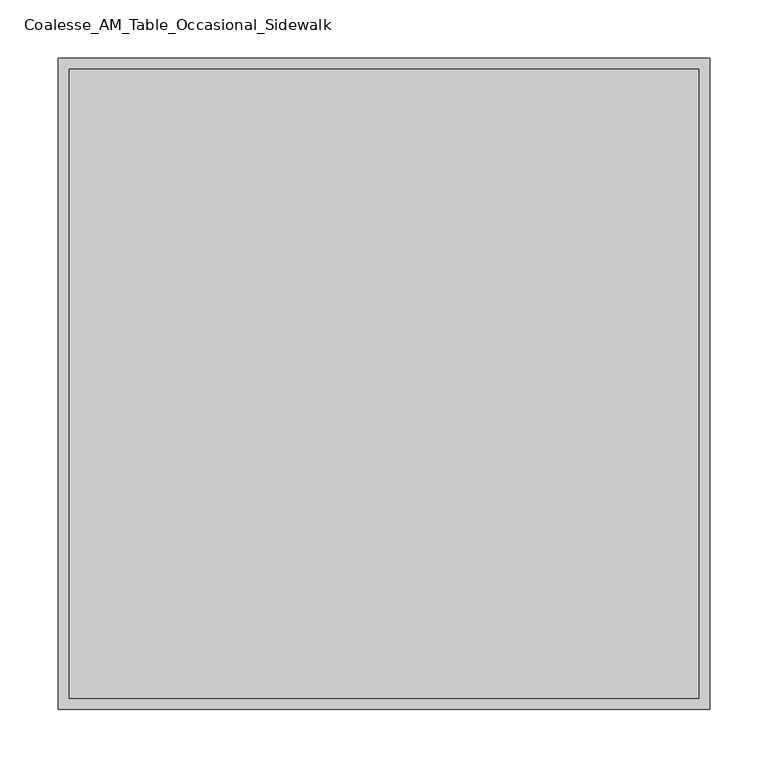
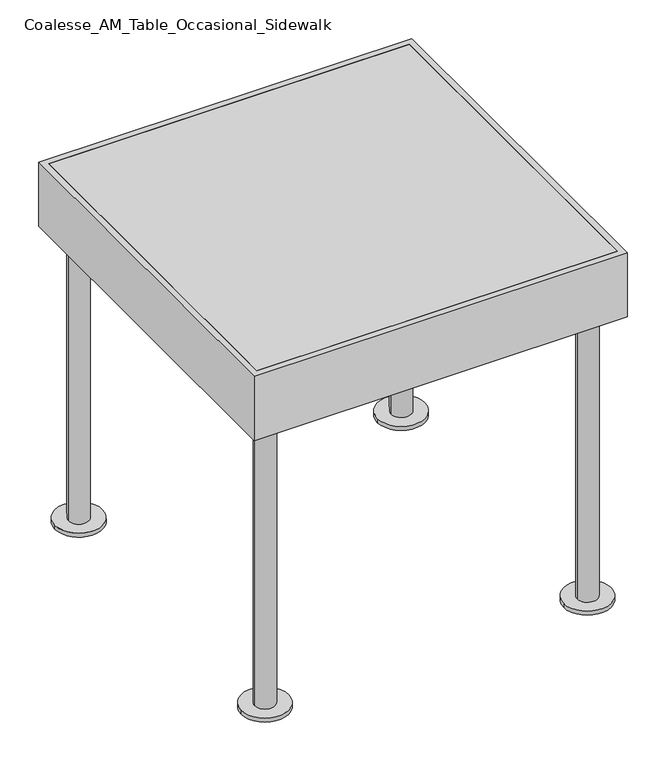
"""IFC4 building model written with IfcOpenShell, lengths in millimetres: furniture geometry, Coalesse_AM_Table_Occasional_Sidewalk : 22D x 22W x 22H."""

from ifc_helpers import new_model, si_unit, point, frame, frame_2d, origin, origin_with_axes, place, context, project, spatial, polyline, circle_curve, trimmed, segment, composite_curve, outline, extrude, source, transform, mapped, element, save


def coalesse_am_table_occasional_sidewalk_21c9ca31(model_context):
    return source(origin(), model_context, "Body", "SweptSolid", [
        extrude(outline(composite_curve([segment(trimmed(circle_curve(frame_2d((520.7425788, -520.6585904)), 15.24), [point((535.9825788, -520.6585904))], [point((505.5025788, -520.6585904))], False, "CARTESIAN"), True, "CONTINUOUS"), segment(trimmed(circle_curve(frame_2d((520.7425788, -520.6585904)), 15.24), [point((505.5025788, -520.6585904))], [point((535.9825788, -520.6585904))], False, "CARTESIAN"), True, "CONTINUOUS")], self_intersect=False)), frame((0.0, 0.0, 6.35), z_axis=(0.0, 0.0, 1.0), x_axis=(1.0, 0.0, 0.0)), (0.0, 0.0, 1.0), 450.8500242),
        extrude(outline(composite_curve([segment(trimmed(circle_curve(frame_2d((520.7425788, -520.6585904)), 35.56), [point((556.3025788, -520.6585904))], [point((485.1825788, -520.6585904))], False, "CARTESIAN"), True, "CONTINUOUS"), segment(trimmed(circle_curve(frame_2d((520.7425788, -520.6585904)), 35.56), [point((485.1825788, -520.6585904))], [point((556.3025788, -520.6585904))], False, "CARTESIAN"), True, "CONTINUOUS")], self_intersect=False)), origin_with_axes(), (0.0, 0.0, 1.0), 6.35),
        extrude(outline(composite_curve([segment(trimmed(circle_curve(frame_2d((38.0574212, -520.6585904)), 15.24), [point((22.8174212, -520.6585904))], [point((53.2974212, -520.6585904))], False, "CARTESIAN"), True, "CONTINUOUS"), segment(trimmed(circle_curve(frame_2d((38.0574212, -520.6585904)), 15.24), [point((53.2974212, -520.6585904))], [point((22.8174212, -520.6585904))], False, "CARTESIAN"), True, "CONTINUOUS")], self_intersect=False)), frame((0.0, 0.0, 6.35), z_axis=(0.0, 0.0, 1.0), x_axis=(1.0, 0.0, 0.0)), (0.0, 0.0, 1.0), 450.8500242),
        extrude(outline(composite_curve([segment(trimmed(circle_curve(frame_2d((38.0574212, -520.6585904)), 35.56), [point((2.4974212, -520.6585904))], [point((73.6174212, -520.6585904))], False, "CARTESIAN"), True, "CONTINUOUS"), segment(trimmed(circle_curve(frame_2d((38.0574212, -520.6585904)), 35.56), [point((73.6174212, -520.6585904))], [point((2.4974212, -520.6585904))], False, "CARTESIAN"), True, "CONTINUOUS")], self_intersect=False)), origin_with_axes(), (0.0, 0.0, 1.0), 6.35),
        extrude(outline(composite_curve([segment(trimmed(circle_curve(frame_2d((520.7425788, -38.1414096)), 15.24), [point((535.9825788, -38.1414096))], [point((505.5025788, -38.1414096))], False, "CARTESIAN"), True, "CONTINUOUS"), segment(trimmed(circle_curve(frame_2d((520.7425788, -38.1414096)), 15.24), [point((505.5025788, -38.1414096))], [point((535.9825788, -38.1414096))], False, "CARTESIAN"), True, "CONTINUOUS")], self_intersect=False)), frame((0.0, 0.0, 6.35), z_axis=(0.0, 0.0, 1.0), x_axis=(1.0, 0.0, 0.0)), (0.0, 0.0, 1.0), 450.8500242),
        extrude(outline(composite_curve([segment(trimmed(circle_curve(frame_2d((520.7425788, -38.1414096)), 35.56), [point((556.3025788, -38.1414096))], [point((485.1825788, -38.1414096))], False, "CARTESIAN"), True, "CONTINUOUS"), segment(trimmed(circle_curve(frame_2d((520.7425788, -38.1414096)), 35.56), [point((485.1825788, -38.1414096))], [point((556.3025788, -38.1414096))], False, "CARTESIAN"), True, "CONTINUOUS")], self_intersect=False)), origin_with_axes(), (0.0, 0.0, 1.0), 6.35),
        extrude(outline(polyline([(558.8, 0.0), (558.8, -558.8), (0.0, -558.8), (0.0, 0.0), (558.8, 0.0)]), holes=[polyline([(549.2750154, -9.5249998), (9.5250003, -9.5249998), (9.5250003, -549.2750002), (549.2750154, -549.2750002), (549.2750154, -9.5249998)])]), frame((0.0, 0.0, 457.2000242), z_axis=(0.0, 0.0, 1.0), x_axis=(1.0, 0.0, 0.0)), (0.0, 0.0, 1.0), 101.5999758),
        extrude(outline(composite_curve([segment(trimmed(circle_curve(frame_2d((38.0574212, -38.1414096)), 15.24), [point((22.8174212, -38.1414096))], [point((53.2974212, -38.1414096))], False, "CARTESIAN"), True, "CONTINUOUS"), segment(trimmed(circle_curve(frame_2d((38.0574212, -38.1414096)), 15.24), [point((53.2974212, -38.1414096))], [point((22.8174212, -38.1414096))], False, "CARTESIAN"), True, "CONTINUOUS")], self_intersect=False)), frame((0.0, 0.0, 6.35), z_axis=(0.0, 0.0, 1.0), x_axis=(1.0, 0.0, 0.0)), (0.0, 0.0, 1.0), 450.8500242),
        extrude(outline(composite_curve([segment(trimmed(circle_curve(frame_2d((38.0574212, -38.1414096)), 35.56), [point((2.4974212, -38.1414096))], [point((73.6174212, -38.1414096))], False, "CARTESIAN"), True, "CONTINUOUS"), segment(trimmed(circle_curve(frame_2d((38.0574212, -38.1414096)), 35.56), [point((73.6174212, -38.1414096))], [point((2.4974212, -38.1414096))], False, "CARTESIAN"), True, "CONTINUOUS")], self_intersect=False)), origin_with_axes(), (0.0, 0.0, 1.0), 6.35),
        extrude(outline(polyline([(549.2750154, -9.5249998), (549.2750154, -549.2750002), (9.5250003, -549.2750002), (9.5250003, -9.5249998), (549.2750154, -9.5249998)])), frame((0.0, 0.0, 457.2000242), z_axis=(0.0, 0.0, 1.0), x_axis=(1.0, 0.0, 0.0)), (0.0, 0.0, 1.0), 101.5999758),
    ])


if __name__ == "__main__":
    model = new_model("IFC4")
    model_context = context("Model", 3, world=origin())
    ifc_project = project(units=[si_unit("LENGTHUNIT", "METRE", prefix="MILLI")], contexts=[model_context])
    site = spatial("IfcSite", under=ifc_project)
    building = spatial("IfcBuilding", under=site)
    placement = place(None, origin())
    coalesse_am_table_occasional_sidewalk_shape = coalesse_am_table_occasional_sidewalk_21c9ca31(model_context)
    element("IfcFurniture", 1, ObjectType="Coalesse_AM_Table_Occasional_Sidewalk : 22D x 22W x 22H", at=placement, inside=building, context=model_context, shape_type="MappedRepresentation", body=[
        mapped(coalesse_am_table_occasional_sidewalk_shape, transform((0.0, 0.0, 0.0), x_axis=(1.0, 0.0, 0.0), y_axis=(0.0, 1.0, 0.0), z_axis=(0.0, 0.0, 1.0))),
    ])
    save(model, "model.ifc")
